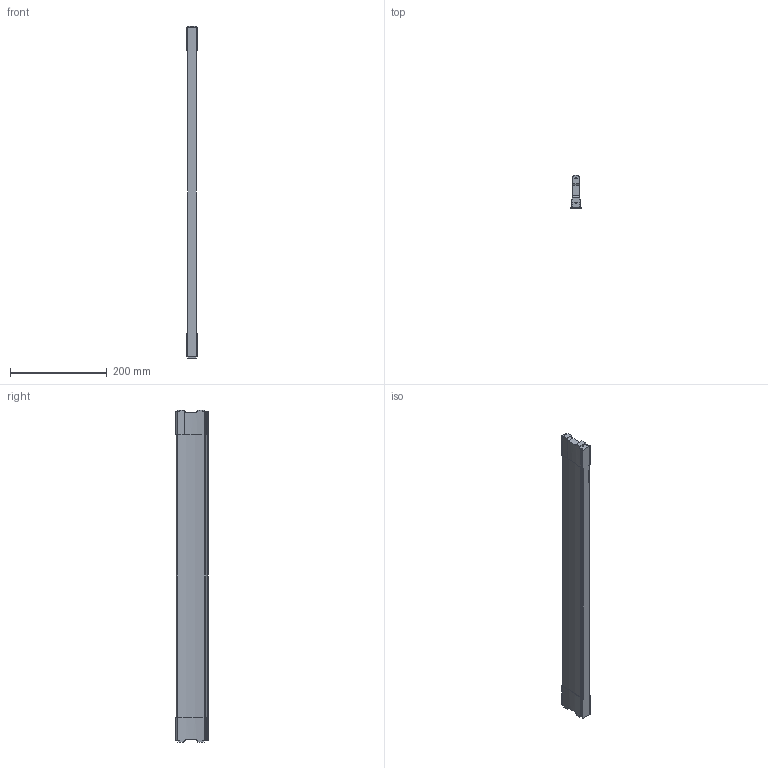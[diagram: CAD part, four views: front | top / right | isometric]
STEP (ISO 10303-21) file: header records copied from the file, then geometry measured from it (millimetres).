
FILE_DESCRIPTION (( 'STEP AP214' ), '1' );
FILE_NAME ('Traverse DWD NL710 Mass X678,4.step', '2010-09-21T13:16:47', ( 'grass' ), ( '' ), 'SwSTEP 2.0', 'SolidWorks 2010', '' );
FILE_SCHEMA (( 'AUTOMOTIVE_DESIGN' ));
Length unit declared in the file: millimetre
Products named in the file (1): Traverse DWD NL710 Mass X678,4
Bounding box: 21.4 x 67.5 x 687.4 mm (x, y, z)
Volume: 569700.3 mm3; surface area: 119120.3 mm2
Topology: 1 solids, 1 shells, 125 faces, 369 edges, 246 vertices
Faces by surface type: cylinder 68, plane 57
Entity records: 4377 total; most frequent: CARTESIAN_POINT 879, DIRECTION 753, ORIENTED_EDGE 738, EDGE_CURVE 369, AXIS2_PLACEMENT_3D 268, VERTEX_POINT 246, LINE 217, VECTOR 217
